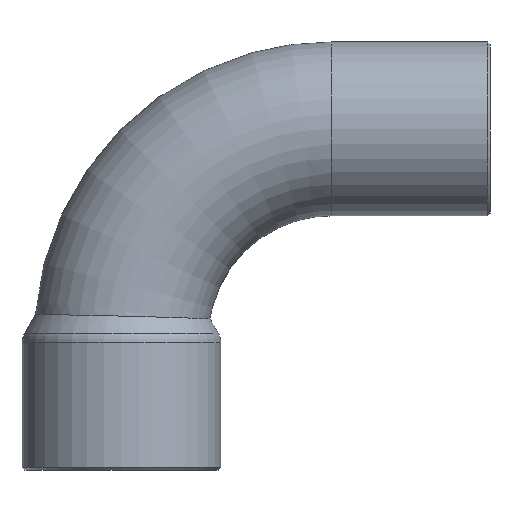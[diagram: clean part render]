
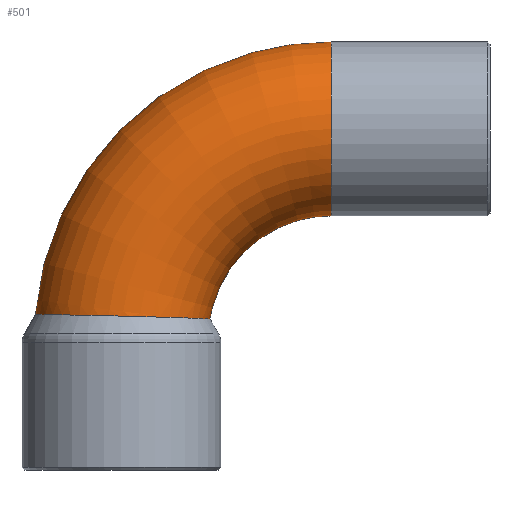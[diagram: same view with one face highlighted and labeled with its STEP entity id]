
A CAD part, left-side view. The second image highlights one B-rep face of the part: STEP entity #501.
In plain terms, the highlighted toroidal (fillet/blend) face has major radius 15.3 mm and minor radius 6.35 mm.
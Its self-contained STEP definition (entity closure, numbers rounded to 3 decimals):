
#161=CARTESIAN_POINT('',(6.35,0.,15.3));
#162=VERTEX_POINT('',#161);
#163=CARTESIAN_POINT('',(0.0,0.,15.3));
#164=DIRECTION('',(0.0,1.0,0.0));
#165=DIRECTION('',(-1.0,0.0,0.0));
#166=AXIS2_PLACEMENT_3D('',#163,#164,#165);
#167=CIRCLE('',#166,6.35);
#168=EDGE_CURVE('',#162,#162,#167,.T.);
#360=CARTESIAN_POINT('',(0.0,21.578,1.762));
#361=VERTEX_POINT('',#360);
#362=CARTESIAN_POINT('',(0.0,21.578,1.762));
#363=CARTESIAN_POINT('',(-0.59,21.578,1.762));
#364=CARTESIAN_POINT('',(-1.178,21.496,1.761));
#365=CARTESIAN_POINT('',(-2.3,21.174,1.756));
#366=CARTESIAN_POINT('',(-2.83,20.94,1.752));
#367=CARTESIAN_POINT('',(-4.038,20.198,1.739));
#368=CARTESIAN_POINT('',(-4.659,19.619,1.729));
#369=CARTESIAN_POINT('',(-5.642,18.253,1.703));
#370=CARTESIAN_POINT('',(-5.993,17.479,1.688));
#371=CARTESIAN_POINT('',(-6.375,15.837,1.652));
#372=CARTESIAN_POINT('',(-6.401,14.985,1.632));
#373=CARTESIAN_POINT('',(-6.122,13.319,1.589));
#374=CARTESIAN_POINT('',(-5.817,12.52,1.566));
#375=CARTESIAN_POINT('',(-4.942,11.131,1.523));
#376=CARTESIAN_POINT('',(-4.396,10.543,1.503));
#377=CARTESIAN_POINT('',(-3.078,9.571,1.467));
#378=CARTESIAN_POINT('',(-2.308,9.211,1.452));
#379=CARTESIAN_POINT('',(-1.061,8.908,1.44));
#380=CARTESIAN_POINT('',(-0.622,8.849,1.437));
#381=CARTESIAN_POINT('',(0.226,8.825,1.436));
#382=CARTESIAN_POINT('',(0.633,8.853,1.438));
#383=CARTESIAN_POINT('',(1.712,9.032,1.445));
#384=CARTESIAN_POINT('',(2.367,9.254,1.454));
#385=CARTESIAN_POINT('',(3.716,9.973,1.482));
#386=CARTESIAN_POINT('',(4.372,10.512,1.502));
#387=CARTESIAN_POINT('',(5.416,11.788,1.544));
#388=CARTESIAN_POINT('',(5.804,12.504,1.566));
#389=CARTESIAN_POINT('',(6.288,14.024,1.608));
#390=CARTESIAN_POINT('',(6.386,14.812,1.628));
#391=CARTESIAN_POINT('',(6.291,16.383,1.664));
#392=CARTESIAN_POINT('',(6.099,17.152,1.681));
#393=CARTESIAN_POINT('',(5.441,18.59,1.71));
#394=CARTESIAN_POINT('',(4.978,19.245,1.722));
#395=CARTESIAN_POINT('',(3.825,20.358,1.742));
#396=CARTESIAN_POINT('',(3.143,20.803,1.749));
#397=CARTESIAN_POINT('',(1.635,21.418,1.76));
#398=CARTESIAN_POINT('',(0.821,21.578,1.762));
#399=CARTESIAN_POINT('',(0.,21.578,1.762));
#400=B_SPLINE_CURVE_WITH_KNOTS('',3,(#362,#363,#364,#365,#366,#367,#368,#369,#370,#371,#372,#373,#374,#375,#376,#377,#378,#379,#380,#381,#382,#383,#384,#385,#386,#387,#388,#389,#390,#391,#392,#393,#394,#395,#396,#397,#398,#399),.UNSPECIFIED.,.T.,.U.,(4,2,2,2,2,2,2,2,2,2,2,2,2,2,2,2,2,2,4),(-4.008,-3.831,-3.658,-3.406,-3.153,-2.9,-2.646,-2.407,-2.155,-2.022,-1.9,-1.694,-1.442,-1.199,-0.963,-0.727,-0.489,-0.246,0.0),.UNSPECIFIED.);
#401=EDGE_CURVE('',#361,#361,#400,.T.);
#490=CARTESIAN_POINT('',(0.0,0.0,0.0));
#491=DIRECTION('',(1.0,0.0,0.0));
#492=DIRECTION('',(0.0,0.0,-1.0));
#493=AXIS2_PLACEMENT_3D('',#490,#491,#492);
#494=TOROIDAL_SURFACE('',#493,15.3,6.35);
#495=ORIENTED_EDGE('',*,*,#168,.T.);
#496=EDGE_LOOP('',(#495));
#497=FACE_OUTER_BOUND('',#496,.T.);
#498=ORIENTED_EDGE('',*,*,#401,.T.);
#499=EDGE_LOOP('',(#498));
#500=FACE_BOUND('',#499,.T.);
#501=ADVANCED_FACE('',(#497,#500),#494,.T.);
